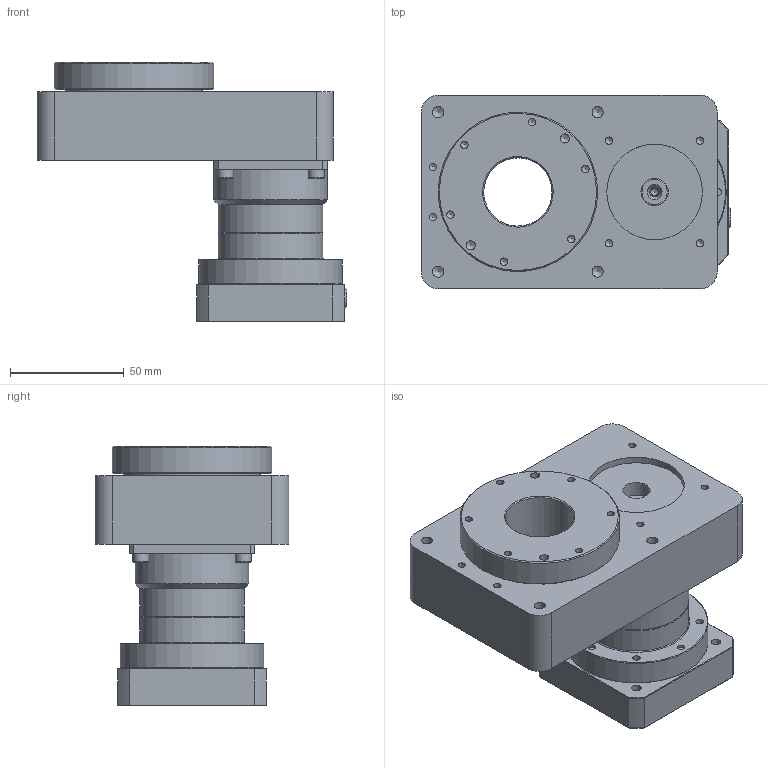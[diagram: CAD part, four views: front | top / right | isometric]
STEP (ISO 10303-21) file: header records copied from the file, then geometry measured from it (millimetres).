
FILE_DESCRIPTION((''),'2;1');
FILE_NAME('C:\Users\disegnatore3\Desktop\3D\TAVOLE ROTANTI\ROTAC PLUS\ROTAC PLUS 85\FORMATO CAD\ROTAC PLUS 85.stp','2017-01-17T13:42:55',('disegnatore3'),(''),'Autodesk Inventor 2012','Autodesk Inventor 2012','');
FILE_SCHEMA(('AUTOMOTIVE_DESIGN { 1 0 10303 214 1 1 1 1 }'));
Length unit declared in the file: millimetre
Products named in the file (7): ROTAC PLUS 85; C85P; PC85P; P185; DIN 7984 M4 x 12; ISO 4762 M4 x 10; RID50R85P
Assembly tree (12 placements, depth 2):
  ROTAC PLUS 85
    C85P
    PC85P
    P185
    DIN 7984 M4 x 12  x4
    ISO 4762 M4 x 10  x4
    RID50R85P
Bounding box: 136 x 85 x 114 mm (x, y, z)
Volume: 491020.3 mm3; surface area: 96789.4 mm2
Topology: 12 solids, 17 shells, 491 faces, 1128 edges, 716 vertices
Faces by surface type: plane 226, cylinder 134, cone 96, torus 35
Full cylindrical faces by diameter (mm): 3 x1, 3.242 x31, 3.5 x1, 4 x16, 4.134 x4, 4.2 x8, 4.3 x1, 4.5 x4, 4.917 x8, 5.5 x1, 7 x12, 7.5 x4, 8 x5, 12 x2, 14 x2, 20 x1, 30 x1, 35 x2, 40 x1, 42 x2, 46 x2, 50 x1, 60 x2, 63 x1, 70 x1
Entity records: 10601 total; most frequent: CARTESIAN_POINT 2019, DIRECTION 1747, ORIENTED_EDGE 1356, AXIS2_PLACEMENT_3D 744, EDGE_CURVE 678, EDGE_LOOP 671, VERTEX_POINT 525, FACE_OUTER_BOUND 401
